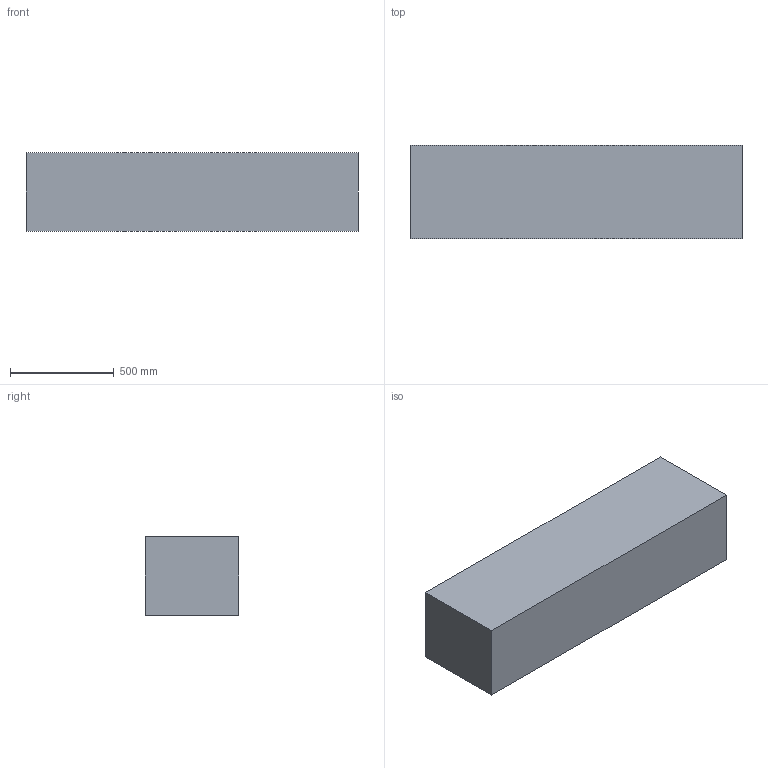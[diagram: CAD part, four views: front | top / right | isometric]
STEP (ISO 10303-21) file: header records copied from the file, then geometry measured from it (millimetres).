
FILE_DESCRIPTION(('FreeCAD Model'),'2;1');
FILE_NAME('Open CASCADE Shape Model','2026-03-31T09:54:01',('FreeCAD'),( 'FreeCAD'),'Open CASCADE STEP processor 7.8','FreeCAD','Unknown');
FILE_SCHEMA(('AUTOMOTIVE_DESIGN { 1 0 10303 214 1 1 1 1 }'));
Length unit declared in the file: millimetre
Products named in the file (1): Open CASCADE STEP translator 7.8 7
Bounding box: 1600 x 450 x 380 mm (x, y, z)
Volume: 273600000 mm3; surface area: 2998000 mm2
Topology: 1 solids, 1 shells, 6 faces, 12 edges, 8 vertices
Faces by surface type: plane 6
Entity records: 166 total; most frequent: CARTESIAN_POINT 27, DIRECTION 26, ORIENTED_EDGE 24, EDGE_CURVE 12, LINE 12, VECTOR 12, VERTEX_POINT 8, AXIS2_PLACEMENT_3D 7
